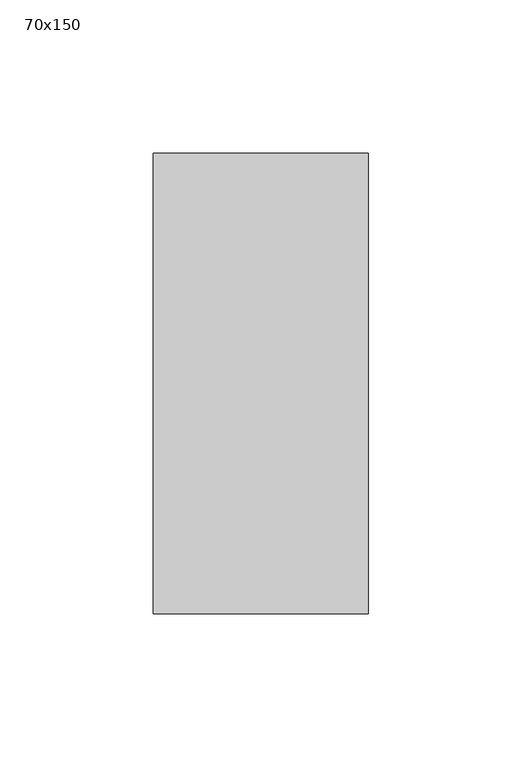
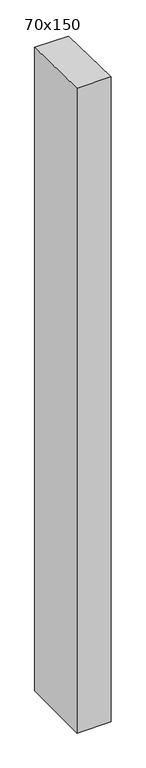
"""IFC4 building model written with IfcOpenShell, lengths in millimetres: member geometry, 長方形のマリオン : 70x150."""

import ifcopenshell
import ifcopenshell.guid

model = None  # the IFC model being written
_history = None  # IfcOwnerHistory: only IFC2X3 demands one
_inside = {}  # id of a spatial element -> (the spatial element, [elements in it])
_under = {}  # id of a project, library or spatial element -> (it, [spatial elements below it])
_declared = {}  # id of a project -> (the project, [libraries it declares])
_typed = {}  # id of a type object -> (the type object, [elements of that type])
_made_of = {}  # id of a material, layer set ... -> (it, [elements and type objects made of it])


def new_model(schema):
    """Start an empty IFC model of exactly this schema.

    Asked for "IFC4X3", IfcOpenShell would pick the latest addendum, in which some entities
    have other attributes; the version numbers below select the first issue.
    IFC2X3 requires an IfcOwnerHistory on every rooted entity: one is made here for all.
    """
    global model, _history
    if schema == "IFC4X3":
        model = ifcopenshell.file(schema_version=(4, 3, 0, 0))
    else:
        model = ifcopenshell.file(schema=schema)
    _inside.clear()
    _under.clear()
    _declared.clear()
    _typed.clear()
    _made_of.clear()
    _history = None
    if model.schema == "IFC2X3":
        org = make("IfcOrganization", Name="unknown")
        user = make(
            "IfcPersonAndOrganization",
            ThePerson=make("IfcPerson", FamilyName="unknown"),
            TheOrganization=org,
        )
        app = make(
            "IfcApplication",
            ApplicationDeveloper=org,
            Version="unknown",
            ApplicationFullName="unknown",
            ApplicationIdentifier="unknown",
        )
        _history = make(
            "IfcOwnerHistory",
            OwningUser=user,
            OwningApplication=app,
            ChangeAction="ADDED",
            CreationDate=0,
        )
    return model


def make(cls, **values):
    """One entity of the class cls with the attributes given. An attribute that is None is left unset."""
    return model.create_entity(
        cls, **{name: value for name, value in values.items() if value is not None}
    )


def rooted(cls, **values):
    """An entity with a GlobalId (a new one), such as an element, a storey or a relation."""
    return make(cls, GlobalId=ifcopenshell.guid.new(), OwnerHistory=_history, **values)


def si_unit(unit_type, name, prefix=None):
    """IfcSIUnit, for example si_unit("LENGTHUNIT", "METRE", prefix="MILLI")."""
    return make("IfcSIUnit", UnitType=unit_type, Prefix=prefix, Name=name)


def assignment(units):
    """IfcUnitAssignment: the units of a project."""
    return None if units is None else make("IfcUnitAssignment", Units=units)


def point(xyz):
    """IfcCartesianPoint."""
    return None if xyz is None else make("IfcCartesianPoint", Coordinates=xyz)


def direction(xyz):
    """IfcDirection."""
    return None if xyz is None else make("IfcDirection", DirectionRatios=xyz)


def frame(location, z_axis=None, x_axis=None):
    """IfcAxis2Placement3D, a coordinate frame: its origin and axes. An axis left out is left unset."""
    return make(
        "IfcAxis2Placement3D",
        Location=point(location),
        Axis=direction(z_axis),
        RefDirection=direction(x_axis),
    )


def origin():
    """The frame at (0, 0, 0) with its axes left unset."""
    return frame((0.0, 0.0, 0.0))


def place(relative_to, where):
    """IfcLocalPlacement: puts the frame where relative to a parent placement (None: the world)."""
    return make(
        "IfcLocalPlacement", PlacementRelTo=relative_to, RelativePlacement=where
    )


def context(
    kind, dimensions, precision=None, world=None, true_north=None, identifier=None
):
    """IfcGeometricRepresentationContext, for example the 3D "Model" context."""
    return make(
        "IfcGeometricRepresentationContext",
        ContextIdentifier=identifier,
        ContextType=kind,
        CoordinateSpaceDimension=dimensions,
        Precision=precision,
        WorldCoordinateSystem=world,
        TrueNorth=true_north,
    )


def project(units=None, contexts=None):
    """IfcProject with its units and contexts."""
    return rooted(
        "IfcProject",
        Name="project",
        RepresentationContexts=contexts,
        UnitsInContext=assignment(units),
    )


def spatial(cls, under=None, at=None, **own):
    """A site, building, storey or space (cls), placed at a placement, below another one or the project."""
    s = rooted(cls, ObjectPlacement=at, **own)
    if under is not None:
        _under.setdefault(under.id(), (under, []))[1].append(s)
    return s


def polyline(points):
    """IfcPolyline through the points."""
    return make("IfcPolyline", Points=[point(p) for p in points])


def outline(outer, holes=None, kind="AREA"):
    """IfcArbitraryClosedProfileDef: a profile drawn as a closed curve; with holes, ...WithVoids."""
    if holes is None:
        return make("IfcArbitraryClosedProfileDef", ProfileType=kind, OuterCurve=outer)
    return make(
        "IfcArbitraryProfileDefWithVoids",
        ProfileType=kind,
        OuterCurve=outer,
        InnerCurves=holes,
    )


def extrude(swept, where, along, depth):
    """IfcExtrudedAreaSolid: the profile swept, set in the frame where, extruded along a direction by depth."""
    return make(
        "IfcExtrudedAreaSolid",
        SweptArea=swept,
        Position=where,
        ExtrudedDirection=direction(along),
        Depth=depth,
    )


def shape(context_of_items, identifier, shape_type, items):
    """IfcShapeRepresentation: the items that make up one representation, for example the "Body"."""
    return make(
        "IfcShapeRepresentation",
        ContextOfItems=context_of_items,
        RepresentationIdentifier=identifier,
        RepresentationType=shape_type,
        Items=items,
    )


def source(mapping_origin, context_of_items, identifier, shape_type, items):
    """IfcRepresentationMap: a shape defined once, which mapped items show again and again."""
    return make(
        "IfcRepresentationMap",
        MappingOrigin=mapping_origin,
        MappedRepresentation=shape(context_of_items, identifier, shape_type, items),
    )


def transform(
    local_origin,
    x_axis=None,
    y_axis=None,
    z_axis=None,
    scale=None,
    scale2=None,
    scale3=None,
    uniform=True,
):
    """IfcCartesianTransformationOperator3D, or its non-uniform kind. x_axis, y_axis, z_axis: its Axis1, 2, 3."""
    if uniform:
        return make(
            "IfcCartesianTransformationOperator3D",
            Axis1=direction(x_axis),
            Axis2=direction(y_axis),
            LocalOrigin=point(local_origin),
            Scale=scale,
            Axis3=direction(z_axis),
        )
    return make(
        "IfcCartesianTransformationOperator3DnonUniform",
        Axis1=direction(x_axis),
        Axis2=direction(y_axis),
        LocalOrigin=point(local_origin),
        Scale=scale,
        Axis3=direction(z_axis),
        Scale2=scale2,
        Scale3=scale3,
    )


def mapped(mapping_source, mapping_target):
    """IfcMappedItem: shows the shape of a source again, moved by a transform."""
    return make(
        "IfcMappedItem", MappingSource=mapping_source, MappingTarget=mapping_target
    )


def made_of(thing, what):
    """Note that an element or type object is made of a material, layer set ...; save() writes the relation."""
    if what is not None:
        _made_of.setdefault(what.id(), (what, []))[1].append(thing)
    return thing


def element(
    cls,
    number,
    at=None,
    inside=None,
    cuts=None,
    type_object=None,
    material=None,
    context=None,
    identifier="Body",
    shape_type=None,
    held_by="IfcProductDefinitionShape",
    body=None,
    shapes=None,
    **own,
):
    """One element of the class cls, such as IfcWall. Its Tag is "e" and its number.

    at: its placement. inside: the storey or other place that contains it. cuts: it is an
    opening in that element (IfcRelVoidsElement). A single representation is given by context,
    identifier, shape_type and body (its items); several are given by shapes. held_by: the class
    of the entity that holds the representations. save() writes the other relations.
    """
    e = rooted(cls, Tag="e%d" % number, ObjectPlacement=at, **own)
    if body is not None:
        shapes = [shape(context, identifier, shape_type, body)]
    if shapes is not None:
        e.Representation = make(held_by, Representations=shapes)
    if inside is not None:
        _inside.setdefault(inside.id(), (inside, []))[1].append(e)
    if cuts is not None:
        rooted(
            "IfcRelVoidsElement", RelatingBuildingElement=cuts, RelatedOpeningElement=e
        )
    if type_object is not None:
        _typed.setdefault(type_object.id(), (type_object, []))[1].append(e)
    return made_of(e, material)


def aggregate(whole, parts):
    """IfcRelAggregates: a whole, such as a stair, and the parts it consists of."""
    return rooted("IfcRelAggregates", RelatingObject=whole, RelatedObjects=parts)


def save(model, path):
    """Write the relations noted so far, then the file.

    IfcRelAggregates (storeys below a building ...), IfcRelContainedInSpatialStructure (elements
    in a storey), IfcRelDefinesByType, IfcRelAssociatesMaterial and IfcRelDeclares: one each for
    every whole, place, type object, material and project.
    """
    for whole, parts in _under.values():
        aggregate(whole, parts)
    for where, things in _inside.values():
        rooted(
            "IfcRelContainedInSpatialStructure",
            RelatedElements=things,
            RelatingStructure=where,
        )
    for kind, things in _typed.values():
        rooted("IfcRelDefinesByType", RelatedObjects=things, RelatingType=kind)
    for what, things in _made_of.values():
        rooted("IfcRelAssociatesMaterial", RelatedObjects=things, RelatingMaterial=what)
    for by, libraries in _declared.values():
        rooted("IfcRelDeclares", RelatingContext=by, RelatedDefinitions=libraries)
    model.write(path)


def member_70x150_978bb48a(model_context):
    return source(origin(), model_context, "Body", "SweptSolid", [
        extrude(outline(polyline([(-75.0, 1.3778058), (75.0, -1.3778058), (75.0, -1399.8660733), (-75.0, -1400.4825878), (-75.0, 1.3778058)])), frame((-70.0, 0.0, 0.0), z_axis=(1.0, 0.0, 0.0), x_axis=(0.0, 1.0, 0.0)), (0.0, 0.0, 1.0), 70.0),
    ])


if __name__ == "__main__":
    model = new_model("IFC4")
    model_context = context("Model", 3, world=origin())
    ifc_project = project(units=[si_unit("LENGTHUNIT", "METRE", prefix="MILLI")], contexts=[model_context])
    site = spatial("IfcSite", under=ifc_project)
    building = spatial("IfcBuilding", under=site)
    placement = place(None, origin())
    member_70x150_shape = member_70x150_978bb48a(model_context)
    element("IfcMember", 1, ObjectType="長方形のマリオン : 70x150", at=placement, inside=building, context=model_context, shape_type="MappedRepresentation", body=[
        mapped(member_70x150_shape, transform((0.0, 0.0, 0.0), x_axis=(1.0, 0.0, 0.0), y_axis=(0.0, 1.0, 0.0), z_axis=(0.0, 0.0, 1.0))),
    ])
    save(model, "model.ifc")
